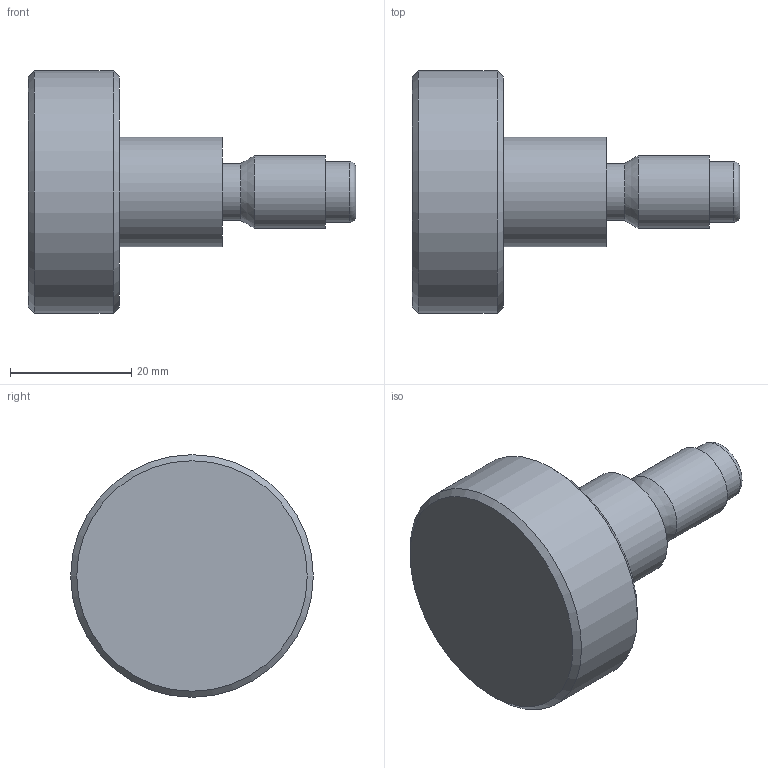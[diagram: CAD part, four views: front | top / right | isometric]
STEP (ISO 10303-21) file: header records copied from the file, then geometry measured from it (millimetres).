
FILE_DESCRIPTION(/* description */ (''),/* implementation_level */ '2;1');
FILE_NAME(/* name */ '',/* time_stamp */ '2024-08-29T13:12:44+09:00',/* author */ ('jhkim'),/* organization */ (''),/* preprocessor_version */ 'ST-DEVELOPER v20',/* originating_system */ 'Autodesk Inventor 2025',/* authorisation */ '');
FILE_SCHEMA (('AUTOMOTIVE_DESIGN { 1 0 10303 214 3 1 1 }'));
Length unit declared in the file: millimetre
Products named in the file (1): 스톱퍼
Bounding box: 54 x 40 x 40 mm (x, y, z)
Volume: 25178.6 mm3; surface area: 6015.5 mm2
Topology: 1 solids, 1 shells, 14 faces, 23 edges, 14 vertices
Faces by surface type: plane 5, cylinder 5, cone 3, torus 1
Full cylindrical faces by diameter (mm): 9.4 x1, 10 x1, 12 x1, 18 x1, 40 x1
Entity records: 381 total; most frequent: DIRECTION 68, CARTESIAN_POINT 52, ORIENTED_EDGE 46, AXIS2_PLACEMENT_3D 30, EDGE_CURVE 23, EDGE_LOOP 17, CIRCLE 15, FACE_OUTER_BOUND 14
